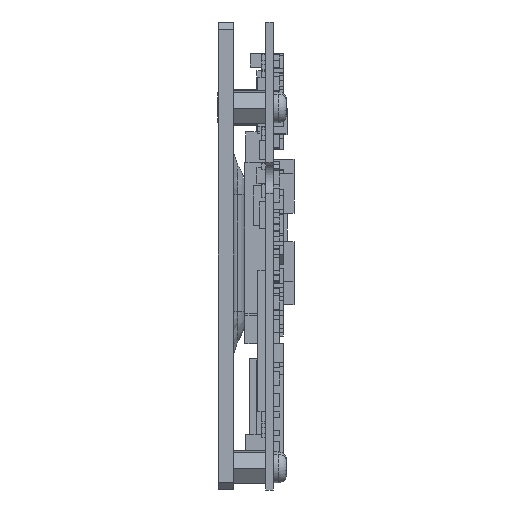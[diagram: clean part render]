
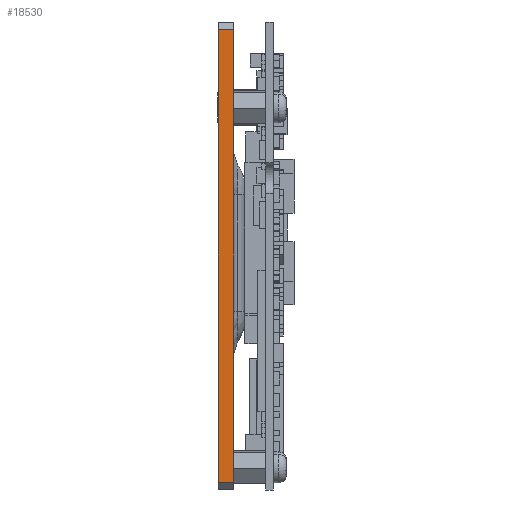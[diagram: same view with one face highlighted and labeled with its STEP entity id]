
A CAD part, left-side view. The second image highlights one B-rep face of the part: STEP entity #18530.
In plain terms, the highlighted planar face has unit normal (-1, 0, 0).
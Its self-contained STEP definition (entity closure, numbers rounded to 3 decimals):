
#606 = LINE ( 'NONE', #52042, #48227 ) ;
#2225 = VERTEX_POINT ( 'NONE', #77144 ) ;
#13698 = CARTESIAN_POINT ( 'NONE',  ( -33.8, -2., -30. ) ) ;
#14782 = VECTOR ( 'NONE', #34522, 1000. ) ;
#15350 = CARTESIAN_POINT ( 'NONE',  ( -33.8, -2., -29. ) ) ;
#18530 = ADVANCED_FACE ( 'NONE', ( #30546 ), #99026, .T. ) ;
#22555 = CARTESIAN_POINT ( 'NONE',  ( -33.8, -2., 29. ) ) ;
#23321 = DIRECTION ( 'NONE',  ( 0., 0., 1. ) ) ;
#26974 = AXIS2_PLACEMENT_3D ( 'NONE', #13698, #80261, #23321 ) ;
#28924 = ORIENTED_EDGE ( 'NONE', *, *, #115401, .F. ) ;
#30546 = FACE_OUTER_BOUND ( 'NONE', #37815, .T. ) ;
#34522 = DIRECTION ( 'NONE',  ( 0., -1., 0. ) ) ;
#37815 = EDGE_LOOP ( 'NONE', ( #89211, #53535, #28924, #78840 ) ) ;
#46760 = EDGE_CURVE ( 'NONE', #86331, #98525, #90743, .T. ) ;
#48227 = VECTOR ( 'NONE', #109126, 1000. ) ;
#48650 = DIRECTION ( 'NONE',  ( 0., 1., 0. ) ) ;
#50840 = VERTEX_POINT ( 'NONE', #22555 ) ;
#51505 = CARTESIAN_POINT ( 'NONE',  ( -33.8, 0., -29. ) ) ;
#51849 = LINE ( 'NONE', #105697, #121836 ) ;
#52042 = CARTESIAN_POINT ( 'NONE',  ( -33.8, -2., 0. ) ) ;
#53535 = ORIENTED_EDGE ( 'NONE', *, *, #46760, .T. ) ;
#57821 = CARTESIAN_POINT ( 'NONE',  ( -33.8, -2., 29. ) ) ;
#74199 = VECTOR ( 'NONE', #48650, 1000. ) ;
#77144 = CARTESIAN_POINT ( 'NONE',  ( -33.8, 0., 29. ) ) ;
#78840 = ORIENTED_EDGE ( 'NONE', *, *, #117061, .T. ) ;
#80261 = DIRECTION ( 'NONE',  ( -1., 0., 0. ) ) ;
#86331 = VERTEX_POINT ( 'NONE', #51505 ) ;
#89211 = ORIENTED_EDGE ( 'NONE', *, *, #110976, .T. ) ;
#90743 = LINE ( 'NONE', #15350, #14782 ) ;
#96114 = DIRECTION ( 'NONE',  ( 0., 0., -1. ) ) ;
#98525 = VERTEX_POINT ( 'NONE', #104585 ) ;
#99026 = PLANE ( 'NONE',  #26974 ) ;
#99595 = LINE ( 'NONE', #57821, #74199 ) ;
#104585 = CARTESIAN_POINT ( 'NONE',  ( -33.8, -2., -29. ) ) ;
#105697 = CARTESIAN_POINT ( 'NONE',  ( -33.8, 0., -30. ) ) ;
#109126 = DIRECTION ( 'NONE',  ( 0., 0., -1. ) ) ;
#110976 = EDGE_CURVE ( 'NONE', #2225, #86331, #51849, .T. ) ;
#115401 = EDGE_CURVE ( 'NONE', #50840, #98525, #606, .T. ) ;
#117061 = EDGE_CURVE ( 'NONE', #50840, #2225, #99595, .T. ) ;
#121836 = VECTOR ( 'NONE', #96114, 1000. ) ;
